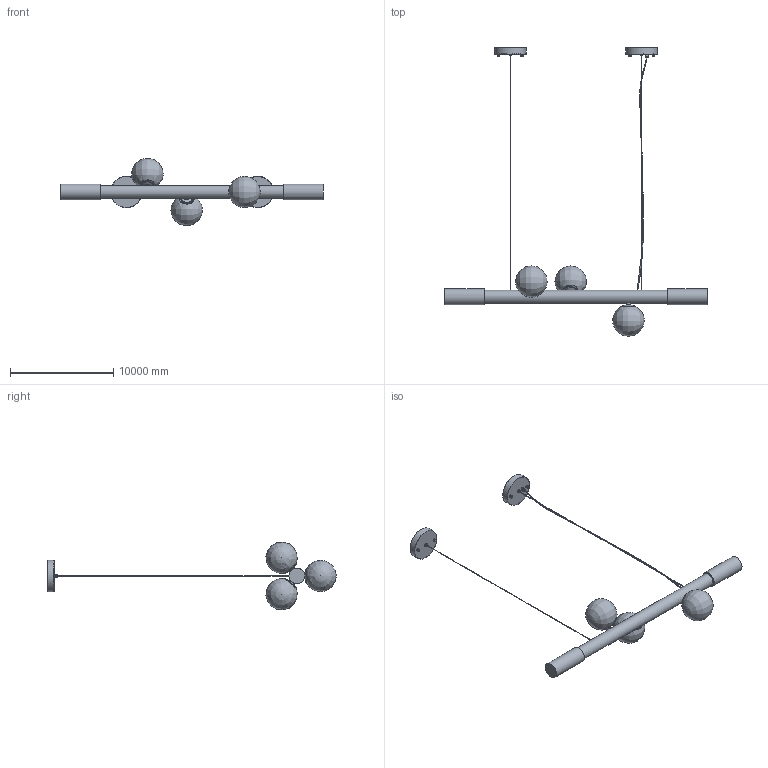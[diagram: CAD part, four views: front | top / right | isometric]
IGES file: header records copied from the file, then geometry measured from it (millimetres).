
Global section: file name: RoMi Carrara Pendant Light-3heads; native system: AutoCAD 2022 - 简体中文 (Simplified Chinese),62HAuto; preprocessor: desk Translation Framework DWG producer (atf_dwg_producer); organization: unknown; date: 20250716.171128; units: inch
Bounding box: 25400 x 27935.84 x 6555.95 mm (x, y, z)
Volume: 21823004378.9 mm3; surface area: 461735086.5 mm2
Topology: 36 solids, 36 shells, 335 faces, 809 edges, 566 vertices
Faces by surface type: bspline 335
